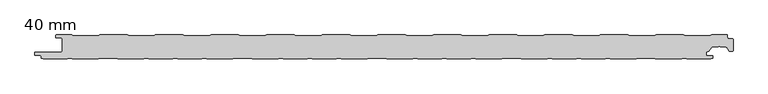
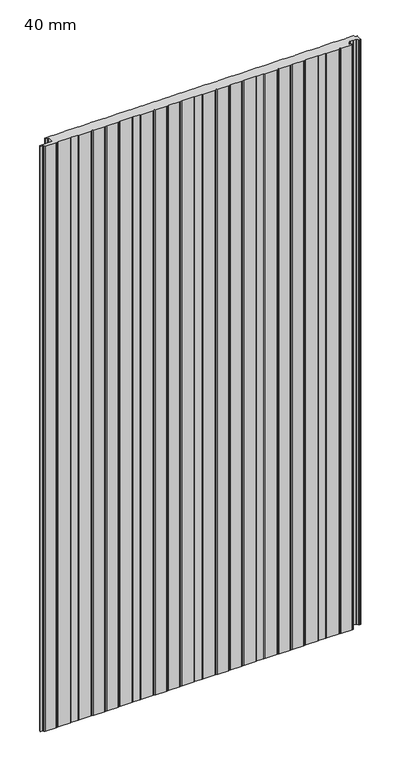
"""IFC4 building model written with IfcOpenShell, lengths in millimetres: plate geometry, HIANSA PANEL - H20.F02.002-PANELES DE FACHADA VERTICAL - PANEL PERFILADO - Panel de Muro Cortina : 40 mm."""

from ifc_helpers import new_model, si_unit, frame, origin, place, context, project, spatial, polyline, circle_curve, source, transform, mapped, element, save
from ifc_brep_helpers import plane_surface, cylinder_surface, revolved_surface, advanced_brep


def plate_40_mm_bdf23f91(model_context):
    return source(origin(), model_context, "Body", "AdvancedBrep", [
        advanced_brep(
        [(538.9050596, -38.8752798, 2200.0), (539.9655098, -37.5170803, 2200.0), (539.9655098, -34.8776596, 2200.0), (530.7999998, -34.8776596, 2200.0), (529.2999998, -33.3776596, 2200.0), (529.2999998, -29.1276596, 2200.0), (530.7999998, -27.6276596, 2200.0), (532.401303, -27.6276596, 2200.0), (533.630031, -26.9880243, 2200.0), (537.8715505, -20.9305067, 2200.0), (539.5098546, -20.0776596, 2200.0), (548.6062273, -20.0776596, 2200.0), (549.7990477, -19.3889845, 2200.0), (550.7990477, -19.3889845, 2200.0), (551.991868, -20.0776596, 2200.0), (561.0896683, -20.0776596, 2200.0), (562.7279724, -20.9305067, 2200.0), (566.9694918, -26.9880243, 2200.0), (568.1982199, -27.6276596, 2200.0), (571.5805695, -27.6276596, 2200.0), (573.0805695, -26.1276596, 2200.0), (573.0810464, -7.7494039, 2200.0), (572.0803311, -6.7486887, 2200.0), (565.9337882, -6.7486887, 2200.0), (563.9323512, -4.7472517, 2200.0), (563.9323512, -1.4941037, 2200.0), (562.9382476, -0.5, 2200.0), (538.0627765, -0.5, 2200.0), (535.0504226, -1.5005169, 2200.0), (494.888145, -1.5005169, 2200.0), (491.8865943, -0.5, 2200.0), (447.0519733, -0.5, 2200.0), (444.0504226, -1.5005169, 2200.0), (403.888145, -1.5005169, 2200.0), (400.8865943, -0.5, 2200.0), (356.0519733, -0.5, 2200.0), (353.0504226, -1.5005169, 2200.0), (312.888145, -1.5005169, 2200.0), (309.8865943, -0.5, 2200.0), (265.0519733, -0.5, 2200.0), (262.0504226, -1.5005169, 2200.0), (221.888145, -1.5005169, 2200.0), (218.8865943, -0.5, 2200.0), (174.0519733, -0.5, 2200.0), (171.0504226, -1.5005169, 2200.0), (130.888145, -1.5005169, 2200.0), (127.8865943, -0.5, 2200.0), (83.0519733, -0.5, 2200.0), (80.0504226, -1.5005169, 2200.0), (39.888145, -1.5005169, 2200.0), (36.8865943, -0.5, 2200.0), (-7.9480267, -0.5, 2200.0), (-10.9495774, -1.5005169, 2200.0), (-51.111855, -1.5005169, 2200.0), (-54.1134057, -0.5, 2200.0), (-98.9480267, -0.5, 2200.0), (-101.9495774, -1.5005169, 2200.0), (-142.111855, -1.5005169, 2200.0), (-145.1134057, -0.5, 2200.0), (-189.9480267, -0.5, 2200.0), (-192.9495774, -1.5005169, 2200.0), (-233.111855, -1.5005169, 2200.0), (-236.1134057, -0.5, 2200.0), (-280.9480267, -0.5, 2200.0), (-283.9495774, -1.5005169, 2200.0), (-324.111855, -1.5005169, 2200.0), (-327.1134057, -0.5, 2200.0), (-371.9480267, -0.5, 2200.0), (-374.9495774, -1.5005169, 2200.0), (-415.111855, -1.5005169, 2200.0), (-418.1134057, -0.5, 2200.0), (-462.9480267, -0.5, 2200.0), (-465.9495774, -1.5005169, 2200.0), (-506.111855, -1.5005169, 2200.0), (-509.1037329, -0.5, 2200.0), (-534.0319041, -0.5, 2200.0), (-535.0319599, -1.5000258, 2200.0), (-535.0322739, -4.4999967, 2200.0), (-534.0322682, -5.5000043, 2200.0), (-526.4181879, -5.5004096, 2200.0), (-524.3789536, -7.5396439, 2200.0), (-524.3789536, -26.3470846, 2200.0), (-526.9158188, -28.8839497, 2200.0), (-569.2000002, -28.8839497, 2200.0), (-569.2000002, -33.6276596, 2200.0), (-560.5344902, -33.6276596, 2200.0), (-559.0344903, -35.1276596, 2200.0), (-559.0344903, -37.5178943, 2200.0), (-557.9748297, -38.8750825, 2200.0), (-555.4751594, -39.5, 2200.0), (-516.3760428, -39.5, 2200.0), (-512.31449, -38.4846118, 2200.0), (-508.2529372, -39.5, 2200.0), (-465.1734067, -39.5, 2200.0), (-462.1734067, -38.5, 2200.0), (-436.899129, -38.5, 2200.0), (-433.899129, -39.5, 2200.0), (-390.8195984, -39.5, 2200.0), (-386.7580456, -38.4846118, 2200.0), (-382.6964928, -39.5, 2200.0), (-343.5973762, -39.5, 2200.0), (-339.5358234, -38.4846118, 2200.0), (-335.4742706, -39.5, 2200.0), (-296.375154, -39.5, 2200.0), (-292.3136012, -38.4846118, 2200.0), (-288.2520484, -39.5, 2200.0), (-245.1725179, -39.5, 2200.0), (-242.1725179, -38.5, 2200.0), (-216.8982402, -38.5, 2200.0), (-213.8982402, -39.5, 2200.0), (-170.8187096, -39.5, 2200.0), (-166.7571568, -38.4846118, 2200.0), (-162.695604, -39.5, 2200.0), (-123.5964874, -39.5, 2200.0), (-119.5349346, -38.4846118, 2200.0), (-115.4733818, -39.5, 2200.0), (-76.3742652, -39.5, 2200.0), (-72.3127124, -38.4846118, 2200.0), (-68.2511596, -39.5, 2200.0), (-25.1716291, -39.5, 2200.0), (-22.1716291, -38.5, 2200.0), (3.1026486, -38.5, 2200.0), (6.1026486, -39.5, 2200.0), (49.1821792, -39.5, 2200.0), (53.243732, -38.4846118, 2200.0), (57.3052848, -39.5, 2200.0), (96.4044014, -39.5, 2200.0), (100.4659542, -38.4846118, 2200.0), (104.527507, -39.5, 2200.0), (143.6266236, -39.5, 2200.0), (147.6881764, -38.4846118, 2200.0), (151.7497292, -39.5, 2200.0), (194.8292597, -39.5, 2200.0), (197.8292597, -38.5, 2200.0), (223.1035374, -38.5, 2200.0), (226.1035374, -39.5, 2200.0), (269.183068, -39.5, 2200.0), (273.2446208, -38.4846118, 2200.0), (277.3061736, -39.5, 2200.0), (316.4052902, -39.5, 2200.0), (320.466843, -38.4846118, 2200.0), (324.5283958, -39.5, 2200.0), (363.6275124, -39.5, 2200.0), (367.6890652, -38.4846118, 2200.0), (371.750618, -39.5, 2200.0), (414.8301485, -39.5, 2200.0), (417.8301485, -38.5, 2200.0), (443.1044262, -38.5, 2200.0), (446.1044262, -39.5, 2200.0), (489.1839568, -39.5, 2200.0), (493.2455096, -38.4846118, 2200.0), (497.3070624, -39.5, 2200.0), (536.406179, -39.5, 2200.0), (538.9050596, -38.8752798, 0.0), (536.406179, -39.5, 0.0), (497.3070624, -39.5, 0.0), (493.2455096, -38.4846118, 0.0), (489.1839568, -39.5, 0.0), (446.1044262, -39.5, 0.0), (443.1044262, -38.5, 0.0), (417.8301485, -38.5, 0.0), (414.8301485, -39.5, 0.0), (371.750618, -39.5, 0.0), (367.6890652, -38.4846118, 0.0), (363.6275124, -39.5, 0.0), (324.5283958, -39.5, 0.0), (320.466843, -38.4846118, 0.0), (316.4052902, -39.5, 0.0), (277.3061736, -39.5, 0.0), (273.2446208, -38.4846118, 0.0), (269.183068, -39.5, 0.0), (226.1035374, -39.5, 0.0), (223.1035374, -38.5, 0.0), (197.8292597, -38.5, 0.0), (194.8292597, -39.5, 0.0), (151.7497292, -39.5, 0.0), (147.6881764, -38.4846118, 0.0), (143.6266236, -39.5, 0.0), (104.527507, -39.5, 0.0), (100.4659542, -38.4846118, 0.0), (96.4044014, -39.5, 0.0), (57.3052848, -39.5, 0.0), (53.243732, -38.4846118, 0.0), (49.1821792, -39.5, 0.0), (6.1026486, -39.5, 0.0), (3.1026486, -38.5, 0.0), (-22.1716291, -38.5, 0.0), (-25.1716291, -39.5, 0.0), (-68.2511596, -39.5, 0.0), (-72.3127124, -38.4846118, 0.0), (-76.3742652, -39.5, 0.0), (-115.4733818, -39.5, 0.0), (-119.5349346, -38.4846118, 0.0), (-123.5964874, -39.5, 0.0), (-162.695604, -39.5, 0.0), (-166.7571568, -38.4846118, 0.0), (-170.8187096, -39.5, 0.0), (-213.8982402, -39.5, 0.0), (-216.8982402, -38.5, 0.0), (-242.1725179, -38.5, 0.0), (-245.1725179, -39.5, 0.0), (-288.2520484, -39.5, 0.0), (-292.3136012, -38.4846118, 0.0), (-296.375154, -39.5, 0.0), (-335.4742706, -39.5, 0.0), (-339.5358234, -38.4846118, 0.0), (-343.5973762, -39.5, 0.0), (-382.6964928, -39.5, 0.0), (-386.7580456, -38.4846118, 0.0), (-390.8195984, -39.5, 0.0), (-433.899129, -39.5, 0.0), (-436.899129, -38.5, 0.0), (-462.1734067, -38.5, 0.0), (-465.1734067, -39.5, 0.0), (-508.2529372, -39.5, 0.0), (-512.31449, -38.4846118, 0.0), (-516.3760428, -39.5, 0.0), (-555.4751594, -39.5, 0.0), (-557.9748297, -38.8750825, 0.0), (-559.0344903, -37.5178943, 0.0), (-559.0344903, -35.1276596, 0.0), (-560.5344902, -33.6276596, 0.0), (-569.2000002, -33.6276596, 0.0), (-569.2000002, -28.8839497, 0.0), (-526.9158188, -28.8839497, 0.0), (-524.3789536, -26.3470846, 0.0), (-524.3789536, -7.5396439, 0.0), (-526.4181879, -5.5004096, 0.0), (-534.0322682, -5.5004096, 0.0), (-535.0322739, -4.4999967, 0.0), (-535.0319599, -1.5000258, 0.0), (-534.0319041, -0.5, 0.0), (-509.1037329, -0.5, 0.0), (-506.111855, -1.5005169, 0.0), (-465.9495774, -1.5005169, 0.0), (-462.9480267, -0.5, 0.0), (-418.1134057, -0.5, 0.0), (-415.111855, -1.5005169, 0.0), (-374.9495774, -1.5005169, 0.0), (-371.9480267, -0.5, 0.0), (-327.1134057, -0.5, 0.0), (-324.111855, -1.5005169, 0.0), (-283.9495774, -1.5005169, 0.0), (-280.9480267, -0.5, 0.0), (-236.1134057, -0.5, 0.0), (-233.111855, -1.5005169, 0.0), (-192.9495774, -1.5005169, 0.0), (-189.9480267, -0.5, 0.0), (-145.1134057, -0.5, 0.0), (-142.111855, -1.5005169, 0.0), (-101.9495774, -1.5005169, 0.0), (-98.9480267, -0.5, 0.0), (-54.1134057, -0.5, 0.0), (-51.111855, -1.5005169, 0.0), (-10.9495774, -1.5005169, 0.0), (-7.9480267, -0.5, 0.0), (36.8865943, -0.5, 0.0), (39.888145, -1.5005169, 0.0), (80.0504226, -1.5005169, 0.0), (83.0519733, -0.5, 0.0), (127.8865943, -0.5, 0.0), (130.888145, -1.5005169, 0.0), (171.0504226, -1.5005169, 0.0), (174.0519733, -0.5, 0.0), (218.8865943, -0.5, 0.0), (221.888145, -1.5005169, 0.0), (262.0504226, -1.5005169, 0.0), (265.0519733, -0.5, 0.0), (309.8865943, -0.5, 0.0), (312.888145, -1.5005169, 0.0), (353.0504226, -1.5005169, 0.0), (356.0519733, -0.5, 0.0), (400.8865943, -0.5, 0.0), (403.888145, -1.5005169, 0.0), (444.0504226, -1.5005169, 0.0), (447.0519733, -0.5, 0.0), (491.8865943, -0.5, 0.0), (494.888145, -1.5005169, 0.0), (535.0504226, -1.5005169, 0.0), (538.0627765, -0.5, 0.0), (562.9382476, -0.5, 0.0), (563.9323512, -1.4941037, 0.0), (563.9323512, -4.7472517, 0.0), (565.9337882, -6.7486887, 0.0), (572.0803311, -6.7486887, 0.0), (573.0810464, -7.7494039, 0.0), (573.0810464, -26.1276596, 0.0), (571.5805695, -27.6276596, 0.0), (568.1982199, -27.6276596, 0.0), (566.9694918, -26.9880243, 0.0), (562.7279724, -20.9305067, 0.0), (561.0896683, -20.0776596, 0.0), (551.991868, -20.0776596, 0.0), (550.7990477, -19.3889845, 0.0), (549.7990477, -19.3889845, 0.0), (548.6062273, -20.0776596, 0.0), (539.5098546, -20.0776596, 0.0), (537.8715505, -20.9305067, 0.0), (533.630031, -26.9880243, 0.0), (532.401303, -27.6276596, 0.0), (530.7999998, -27.6276596, 0.0), (529.2999998, -29.1276596, 0.0), (529.2999998, -33.3776596, 0.0), (530.7999998, -34.8776596, 0.0), (539.9655098, -34.8776596, 0.0), (539.9655098, -37.5170803, 0.0)],
        [
            (0, 1, circle_curve(frame((538.5655098, -37.5170803, 2200.0), z_axis=(0.0, 0.0, 1.0), x_axis=(1.0, 0.0, 0.0)), 1.4)),
            (1, 2),
            (2, 3),
            (3, 4, circle_curve(frame((530.7999998, -33.3776596, 2200.0), z_axis=(0.0, 0.0, -1.0), x_axis=(1.0, 0.0, 0.0)), 1.5)),
            (4, 5),
            (5, 6, circle_curve(frame((530.7999998, -29.1276596, 2200.0), z_axis=(0.0, 0.0, -1.0), x_axis=(1.0, 0.0, 0.0)), 1.5)),
            (6, 7),
            (7, 8, circle_curve(frame((532.401303, -26.1276596, 2200.0), z_axis=(0.0, 0.0, 1.0), x_axis=(1.0, 0.0, 0.0)), 1.5)),
            (8, 9),
            (9, 10, circle_curve(frame((539.5098546, -22.0776596, 2200.0), z_axis=(0.0, 0.0, -1.0), x_axis=(1.0, 0.0, 0.0)), 2.0)),
            (10, 11),
            (11, 12),
            (12, 13, circle_curve(frame((550.2990477, -20.2550099, 2200.0), z_axis=(0.0, 0.0, -1.0), x_axis=(1.0, 0.0, 0.0)), 1.0)),
            (13, 14),
            (14, 15),
            (15, 16, circle_curve(frame((561.0896683, -22.0776596, 2200.0), z_axis=(0.0, 0.0, -1.0), x_axis=(1.0, 0.0, 0.0)), 2.0)),
            (16, 17),
            (17, 18, circle_curve(frame((568.1982199, -26.1276596, 2200.0), z_axis=(0.0, 0.0, 1.0), x_axis=(1.0, 0.0, 0.0)), 1.5)),
            (18, 19),
            (19, 20, circle_curve(frame((571.5805695, -26.1276596, 2200.0), z_axis=(0.0, 0.0, 1.0), x_axis=(1.0, 0.0, 0.0)), 1.5)),
            (20, 21),
            (21, 22, circle_curve(frame((572.0803311, -7.7494039, 2200.0), z_axis=(0.0, 0.0, 1.0), x_axis=(1.0, 0.0, 0.0)), 1.0007153)),
            (22, 23),
            (23, 24, circle_curve(frame((565.9337882, -4.7472517, 2200.0), z_axis=(0.0, 0.0, -1.0), x_axis=(1.0, 0.0, 0.0)), 2.0014369)),
            (24, 25),
            (25, 26, circle_curve(frame((562.9382476, -1.4941037, 2200.0), z_axis=(0.0, 0.0, 1.0), x_axis=(1.0, 0.0, 0.0)), 0.9941037)),
            (26, 27),
            (27, 28),
            (28, 29),
            (29, 30),
            (30, 31),
            (31, 32),
            (32, 33),
            (33, 34),
            (34, 35),
            (35, 36),
            (36, 37),
            (37, 38),
            (38, 39),
            (39, 40),
            (40, 41),
            (41, 42),
            (42, 43),
            (43, 44),
            (44, 45),
            (45, 46),
            (46, 47),
            (47, 48),
            (48, 49),
            (49, 50),
            (50, 51),
            (51, 52),
            (52, 53),
            (53, 54),
            (54, 55),
            (55, 56),
            (56, 57),
            (57, 58),
            (58, 59),
            (59, 60),
            (60, 61),
            (61, 62),
            (62, 63),
            (63, 64),
            (64, 65),
            (65, 66),
            (66, 67),
            (67, 68),
            (68, 69),
            (69, 70),
            (70, 71),
            (71, 72),
            (72, 73),
            (73, 74),
            (74, 75),
            (75, 76, circle_curve(frame((-534.0319041, -1.5000558, 2200.0), z_axis=(0.0, 0.0, 1.0), x_axis=(1.0, 0.0, 0.0)), 1.0000558)),
            (76, 77),
            (77, 78, circle_curve(frame((-534.0322682, -4.4999986, 2200.0), z_axis=(0.0, 0.0, 1.0), x_axis=(1.0, 0.0, 0.0)), 1.0000057)),
            (78, 79),
            (79, 80, circle_curve(frame((-526.4181879, -7.5396439, 2200.0), z_axis=(0.0, 0.0, -1.0), x_axis=(1.0, 0.0, 0.0)), 2.0392343)),
            (80, 81),
            (81, 82, circle_curve(frame((-526.9158188, -26.3470846, 2200.0), z_axis=(0.0, 0.0, -1.0), x_axis=(1.0, 0.0, 0.0)), 2.5368651)),
            (82, 83),
            (83, 84),
            (84, 85),
            (85, 86, circle_curve(frame((-560.5344902, -35.1276596, 2200.0), z_axis=(0.0, 0.0, -1.0), x_axis=(1.0, 0.0, 0.0)), 1.5)),
            (86, 87),
            (87, 88, circle_curve(frame((-557.6355327, -37.5178943, 2200.0), z_axis=(0.0, 0.0, 1.0), x_axis=(1.0, 0.0, 0.0)), 1.3989576)),
            (88, 89),
            (89, 90),
            (90, 91),
            (91, 92),
            (92, 93),
            (93, 94),
            (94, 95),
            (95, 96),
            (96, 97),
            (97, 98),
            (98, 99),
            (99, 100),
            (100, 101),
            (101, 102),
            (102, 103),
            (103, 104),
            (104, 105),
            (105, 106),
            (106, 107),
            (107, 108),
            (108, 109),
            (109, 110),
            (110, 111),
            (111, 112),
            (112, 113),
            (113, 114),
            (114, 115),
            (115, 116),
            (116, 117),
            (117, 118),
            (118, 119),
            (119, 120),
            (120, 121),
            (121, 122),
            (122, 123),
            (123, 124),
            (124, 125),
            (125, 126),
            (126, 127),
            (127, 128),
            (128, 129),
            (129, 130),
            (130, 131),
            (131, 132),
            (132, 133),
            (133, 134),
            (134, 135),
            (135, 136),
            (136, 137),
            (137, 138),
            (138, 139),
            (139, 140),
            (140, 141),
            (141, 142),
            (142, 143),
            (143, 144),
            (144, 145),
            (145, 146),
            (146, 147),
            (147, 148),
            (148, 149),
            (149, 150),
            (150, 151),
            (151, 152),
            (152, 0),
            (153, 154),
            (154, 155),
            (155, 156),
            (156, 157),
            (157, 158),
            (158, 159),
            (159, 160),
            (160, 161),
            (161, 162),
            (162, 163),
            (163, 164),
            (164, 165),
            (165, 166),
            (166, 167),
            (167, 168),
            (168, 169),
            (169, 170),
            (170, 171),
            (171, 172),
            (172, 173),
            (173, 174),
            (174, 175),
            (175, 176),
            (176, 177),
            (177, 178),
            (178, 179),
            (179, 180),
            (180, 181),
            (181, 182),
            (182, 183),
            (183, 184),
            (184, 185),
            (185, 186),
            (186, 187),
            (187, 188),
            (188, 189),
            (189, 190),
            (190, 191),
            (191, 192),
            (192, 193),
            (193, 194),
            (194, 195),
            (195, 196),
            (196, 197),
            (197, 198),
            (198, 199),
            (199, 200),
            (200, 201),
            (201, 202),
            (202, 203),
            (203, 204),
            (204, 205),
            (205, 206),
            (206, 207),
            (207, 208),
            (208, 209),
            (209, 210),
            (210, 211),
            (211, 212),
            (212, 213),
            (213, 214),
            (214, 215),
            (215, 216),
            (216, 217),
            (217, 218),
            (218, 219, circle_curve(frame((-557.6355327, -37.5178943, 0.0), z_axis=(0.0, 0.0, -1.0), x_axis=(1.0, 0.0, 0.0)), 1.3989576)),
            (219, 220),
            (220, 221, circle_curve(frame((-560.5344902, -35.1276596, 0.0), z_axis=(0.0, 0.0, 1.0), x_axis=(1.0, 0.0, 0.0)), 1.5)),
            (221, 222),
            (222, 223),
            (223, 224),
            (224, 225, circle_curve(frame((-526.9158188, -26.3470846, 0.0), z_axis=(0.0, 0.0, 1.0), x_axis=(1.0, 0.0, 0.0)), 2.5368651)),
            (225, 226),
            (226, 227, circle_curve(frame((-526.4181879, -7.5396439, 0.0), z_axis=(0.0, 0.0, 1.0), x_axis=(1.0, 0.0, 0.0)), 2.0392343)),
            (227, 228),
            (228, 229, circle_curve(frame((-534.0322682, -4.4999986, 0.0), z_axis=(0.0, 0.0, -1.0), x_axis=(1.0, 0.0, 0.0)), 1.0000057)),
            (229, 230),
            (230, 231, circle_curve(frame((-534.0319041, -1.5000558, 0.0), z_axis=(0.0, 0.0, -1.0), x_axis=(1.0, 0.0, 0.0)), 1.0000558)),
            (231, 232),
            (232, 233),
            (233, 234),
            (234, 235),
            (235, 236),
            (236, 237),
            (237, 238),
            (238, 239),
            (239, 240),
            (240, 241),
            (241, 242),
            (242, 243),
            (243, 244),
            (244, 245),
            (245, 246),
            (246, 247),
            (247, 248),
            (248, 249),
            (249, 250),
            (250, 251),
            (251, 252),
            (252, 253),
            (253, 254),
            (254, 255),
            (255, 256),
            (256, 257),
            (257, 258),
            (258, 259),
            (259, 260),
            (260, 261),
            (261, 262),
            (262, 263),
            (263, 264),
            (264, 265),
            (265, 266),
            (266, 267),
            (267, 268),
            (268, 269),
            (269, 270),
            (270, 271),
            (271, 272),
            (272, 273),
            (273, 274),
            (274, 275),
            (275, 276),
            (276, 277),
            (277, 278),
            (278, 279),
            (279, 280),
            (280, 281, circle_curve(frame((562.9382476, -1.4941037, 0.0), z_axis=(0.0, 0.0, -1.0), x_axis=(1.0, 0.0, 0.0)), 0.9941037)),
            (281, 282),
            (282, 283, circle_curve(frame((565.9337882, -4.7472517, 0.0), z_axis=(0.0, 0.0, 1.0), x_axis=(1.0, 0.0, 0.0)), 2.0014369)),
            (283, 284),
            (284, 285, circle_curve(frame((572.0803311, -7.7494039, 0.0), z_axis=(0.0, 0.0, -1.0), x_axis=(1.0, 0.0, 0.0)), 1.0007153)),
            (285, 286),
            (286, 287, circle_curve(frame((571.5805695, -26.1276596, 0.0), z_axis=(0.0, 0.0, -1.0), x_axis=(1.0, 0.0, 0.0)), 1.5)),
            (287, 288),
            (288, 289, circle_curve(frame((568.1982199, -26.1276596, 0.0), z_axis=(0.0, 0.0, -1.0), x_axis=(1.0, 0.0, 0.0)), 1.5)),
            (289, 290),
            (290, 291, circle_curve(frame((561.0896683, -22.0776596, 0.0), z_axis=(0.0, 0.0, 1.0), x_axis=(1.0, 0.0, 0.0)), 2.0)),
            (291, 292),
            (292, 293),
            (293, 294, circle_curve(frame((550.2990477, -20.2550099, 0.0), z_axis=(0.0, 0.0, 1.0), x_axis=(1.0, 0.0, 0.0)), 1.0)),
            (294, 295),
            (295, 296),
            (296, 297, circle_curve(frame((539.5098546, -22.0776596, 0.0), z_axis=(0.0, 0.0, 1.0), x_axis=(1.0, 0.0, 0.0)), 2.0)),
            (297, 298),
            (298, 299, circle_curve(frame((532.401303, -26.1276596, 0.0), z_axis=(0.0, 0.0, -1.0), x_axis=(1.0, 0.0, 0.0)), 1.5)),
            (299, 300),
            (300, 301, circle_curve(frame((530.7999998, -29.1276596, 0.0), z_axis=(0.0, 0.0, 1.0), x_axis=(1.0, 0.0, 0.0)), 1.5)),
            (301, 302),
            (302, 303, circle_curve(frame((530.7999998, -33.3776596, 0.0), z_axis=(0.0, 0.0, 1.0), x_axis=(1.0, 0.0, 0.0)), 1.5)),
            (303, 304),
            (304, 305),
            (305, 153, circle_curve(frame((538.5655098, -37.5170803, 0.0), z_axis=(0.0, 0.0, -1.0), x_axis=(1.0, 0.0, 0.0)), 1.4)),
            (88, 218),
            (217, 89),
            (87, 219),
            (86, 220),
            (85, 221),
            (84, 222),
            (83, 223),
            (82, 224),
            (81, 225),
            (80, 226),
            (79, 227),
            (78, 228),
            (25, 281),
            (280, 26),
            (24, 282),
            (23, 283),
            (21, 285),
            (284, 22),
            (20, 286),
            (19, 287),
            (18, 288),
            (17, 289),
            (16, 290),
            (15, 291),
            (9, 297),
            (296, 10),
            (8, 298),
            (7, 299),
            (6, 300),
            (5, 301),
            (4, 302),
            (3, 303),
            (2, 304),
            (1, 305),
            (0, 153),
            (152, 154),
            (151, 155),
            (150, 156),
            (149, 157),
            (148, 158),
            (147, 159),
            (146, 160),
            (145, 161),
            (144, 162),
            (143, 163),
            (142, 164),
            (141, 165),
            (140, 166),
            (139, 167),
            (138, 168),
            (137, 169),
            (136, 170),
            (135, 171),
            (134, 172),
            (133, 173),
            (132, 174),
            (131, 175),
            (130, 176),
            (129, 177),
            (128, 178),
            (127, 179),
            (126, 180),
            (125, 181),
            (124, 182),
            (123, 183),
            (122, 184),
            (121, 185),
            (120, 186),
            (119, 187),
            (118, 188),
            (117, 189),
            (116, 190),
            (115, 191),
            (114, 192),
            (113, 193),
            (112, 194),
            (111, 195),
            (110, 196),
            (109, 197),
            (108, 198),
            (107, 199),
            (106, 200),
            (105, 201),
            (104, 202),
            (103, 203),
            (102, 204),
            (101, 205),
            (100, 206),
            (99, 207),
            (98, 208),
            (97, 209),
            (96, 210),
            (95, 211),
            (94, 212),
            (93, 213),
            (92, 214),
            (91, 215),
            (90, 216),
            (74, 232),
            (231, 75),
            (73, 233),
            (72, 234),
            (71, 235),
            (70, 236),
            (69, 237),
            (68, 238),
            (67, 239),
            (66, 240),
            (65, 241),
            (64, 242),
            (63, 243),
            (62, 244),
            (61, 245),
            (60, 246),
            (59, 247),
            (58, 248),
            (57, 249),
            (56, 250),
            (55, 251),
            (54, 252),
            (53, 253),
            (52, 254),
            (51, 255),
            (50, 256),
            (49, 257),
            (48, 258),
            (47, 259),
            (46, 260),
            (45, 261),
            (44, 262),
            (43, 263),
            (42, 264),
            (41, 265),
            (40, 266),
            (39, 267),
            (38, 268),
            (37, 269),
            (36, 270),
            (35, 271),
            (34, 272),
            (33, 273),
            (32, 274),
            (31, 275),
            (30, 276),
            (29, 277),
            (28, 278),
            (27, 279),
            (14, 292),
            (13, 293),
            (12, 294),
            (11, 295),
            (77, 229),
            (76, 230),
        ],
        [
            plane_surface(frame((-550.0000002, 0.0, 2200.0), z_axis=(0.0, 0.0, 1.0), x_axis=(-1.0, 0.0, 0.0))),
            plane_surface(frame((-550.0000002, 0.0, 0.0), z_axis=(0.0, 0.0, -1.0), x_axis=(-1.0, 0.0, 0.0))),
            plane_surface(frame((-555.4751594, -39.5, 2200.0), z_axis=(-0.24253560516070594, -0.9701425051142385, 0.0), x_axis=(0.0, 0.0, -1.0))),
            cylinder_surface(frame((-557.6355327, -37.5178943, 2200.0), z_axis=(0.0, 0.0, 1.0), x_axis=(1.0, 0.0, 0.0)), 1.3989576),
            plane_surface(frame((-559.0344903, -37.5178943, 2200.0), z_axis=(-1.0, 0.0, 0.0), x_axis=(0.0, 0.0, -1.0))),
            revolved_surface(polyline([(-559.0344902, -35.1276596, 0.0), (-559.0344902, -35.1276596, 2200.0)]), (-560.5344902, -35.1276596, 2200.0), (0.0, 0.0, -1.0)),
            plane_surface(frame((-560.5344902, -33.6276596, 2200.0), z_axis=(0.0, -1.0, 0.0), x_axis=(0.0, 0.0, -1.0))),
            plane_surface(frame((-569.2000002, -33.6276596, 2200.0), z_axis=(-1.0, 0.0, 0.0), x_axis=(0.0, 0.0, -1.0))),
            plane_surface(frame((-569.2000002, -28.8839497, 2200.0), z_axis=(0.0, 1.0, 0.0), x_axis=(0.0, 0.0, -1.0))),
            revolved_surface(polyline([(-524.3789537, -26.3470846, 0.0), (-524.3789537, -26.3470846, 2200.0)]), (-526.9158188, -26.3470846, 2200.0), (0.0, 0.0, -1.0)),
            plane_surface(frame((-524.3789536, -26.3470846, 2200.0), z_axis=(-1.0, 0.0, 0.0), x_axis=(0.0, 0.0, -1.0))),
            revolved_surface(polyline([(-524.3789536, -7.5396439, 0.0), (-524.3789536, -7.5396439, 2200.0)]), (-526.4181879, -7.5396439, 2200.0), (0.0, 0.0, -1.0)),
            plane_surface(frame((-526.4181879, -5.5004096, 2200.0), z_axis=(0.0, -1.0, 0.0), x_axis=(0.0, 0.0, -1.0))),
            cylinder_surface(frame((562.9382476, -1.4941037, 2200.0), z_axis=(0.0, 0.0, 1.0), x_axis=(1.0, 0.0, 0.0)), 0.9941037),
            plane_surface(frame((563.9323512, -1.4941037, 2200.0), z_axis=(1.0, 0.0, 0.0), x_axis=(0.0, 0.0, -1.0))),
            revolved_surface(polyline([(567.9352251, -4.7472517, 0.0), (567.9352251, -4.7472517, 2200.0)]), (565.9337882, -4.7472517, 2200.0), (0.0, 0.0, -1.0)),
            cylinder_surface(frame((572.0803311, -7.7494039, 2200.0), z_axis=(0.0, 0.0, 1.0), x_axis=(1.0, 0.0, 0.0)), 1.0007153),
            plane_surface(frame((573.0810464, -7.7494039, 2200.0), z_axis=(1.0, 0.0, 0.0), x_axis=(0.0, 0.0, -1.0))),
            cylinder_surface(frame((571.5805695, -26.1276596, 2200.0), z_axis=(0.0, 0.0, 1.0), x_axis=(1.0, 0.0, 0.0)), 1.5),
            plane_surface(frame((571.5805695, -27.6276596, 2200.0), z_axis=(0.0, -1.0, 0.0), x_axis=(0.0, 0.0, -1.0))),
            cylinder_surface(frame((568.1982199, -26.1276596, 2200.0), z_axis=(0.0, 0.0, 1.0), x_axis=(1.0, 0.0, 0.0)), 1.5),
            plane_surface(frame((566.9694918, -26.9880243, 2200.0), z_axis=(-0.8191520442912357, -0.5735764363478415, 0.0), x_axis=(0.0, 0.0, -1.0))),
            revolved_surface(polyline([(563.0896683, -22.0776596, 0.0), (563.0896683, -22.0776596, 2200.0)]), (561.0896683, -22.0776596, 2200.0), (0.0, 0.0, -1.0)),
            revolved_surface(polyline([(541.5098546, -22.0776596, 0.0), (541.5098546, -22.0776596, 2200.0)]), (539.5098546, -22.0776596, 2200.0), (0.0, 0.0, -1.0)),
            plane_surface(frame((537.8715505, -20.9305067, 2200.0), z_axis=(0.8191520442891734, -0.5735764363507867, 0.0), x_axis=(0.0, 0.0, -1.0))),
            cylinder_surface(frame((532.401303, -26.1276596, 2200.0), z_axis=(0.0, 0.0, 1.0), x_axis=(1.0, 0.0, 0.0)), 1.5),
            plane_surface(frame((532.401303, -27.6276596, 2200.0), z_axis=(0.0, -1.0, 0.0), x_axis=(0.0, 0.0, -1.0))),
            revolved_surface(polyline([(532.2999998, -29.1276596, 0.0), (532.2999998, -29.1276596, 2200.0)]), (530.7999998, -29.1276596, 2200.0), (0.0, 0.0, -1.0)),
            plane_surface(frame((529.2999998, -29.1276596, 2200.0), z_axis=(1.0, 0.0, 0.0), x_axis=(0.0, 0.0, -1.0))),
            revolved_surface(polyline([(532.2999998, -33.3776596, 0.0), (532.2999998, -33.3776596, 2200.0)]), (530.7999998, -33.3776596, 2200.0), (0.0, 0.0, -1.0)),
            plane_surface(frame((530.7999998, -34.8776596, 2200.0), z_axis=(0.0, 1.0, 0.0), x_axis=(0.0, 0.0, -1.0))),
            plane_surface(frame((539.9655098, -34.8776596, 2200.0), z_axis=(1.0, 0.0, 0.0), x_axis=(0.0, 0.0, -1.0))),
            cylinder_surface(frame((538.5655098, -37.5170803, 2200.0), z_axis=(0.0, 0.0, 1.0), x_axis=(1.0, 0.0, 0.0)), 1.4),
            plane_surface(frame((538.9050596, -38.8752798, 2200.0), z_axis=(0.24253562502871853, -0.9701425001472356, 0.0), x_axis=(0.0, 0.0, -1.0))),
            plane_surface(frame((565.9337882, -6.7486887, 2200.0), z_axis=(0.0, 1.0, 0.0), x_axis=(0.0, 0.0, -1.0))),
            plane_surface(frame((536.406179, -39.5, 2200.0), z_axis=(0.0, -1.0, 0.0), x_axis=(0.0, 0.0, -1.0))),
            plane_surface(frame((497.3070624, -39.5, 2200.0), z_axis=(-0.24253562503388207, -0.9701425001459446, 0.0), x_axis=(0.0, 0.0, -1.0))),
            plane_surface(frame((493.2455096, -38.4846118, 2200.0), z_axis=(0.2425356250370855, -0.9701425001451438, 0.0), x_axis=(0.0, 0.0, -1.0))),
            plane_surface(frame((489.1839568, -39.5, 2200.0), z_axis=(0.0, -1.0, 0.0), x_axis=(0.0, 0.0, -1.0))),
            plane_surface(frame((446.1044262, -39.5, 2200.0), z_axis=(-0.31622776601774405, -0.9486832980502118, 0.0), x_axis=(0.0, 0.0, -1.0))),
            plane_surface(frame((443.1044262, -38.5, 2200.0), z_axis=(0.0, -1.0, 0.0), x_axis=(0.0, 0.0, -1.0))),
            plane_surface(frame((417.8301485, -38.5, 2200.0), z_axis=(0.316227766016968, -0.9486832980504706, 0.0), x_axis=(0.0, 0.0, -1.0))),
            plane_surface(frame((414.8301485, -39.5, 2200.0), z_axis=(0.0, -1.0, 0.0), x_axis=(0.0, 0.0, -1.0))),
            plane_surface(frame((371.750618, -39.5, 2200.0), z_axis=(-0.24253562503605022, -0.9701425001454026, 0.0), x_axis=(0.0, 0.0, -1.0))),
            plane_surface(frame((367.6890652, -38.4846118, 2200.0), z_axis=(0.24253562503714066, -0.97014250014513, 0.0), x_axis=(0.0, 0.0, -1.0))),
            plane_surface(frame((363.6275124, -39.5, 2200.0), z_axis=(0.0, -1.0, 0.0), x_axis=(0.0, 0.0, -1.0))),
            plane_surface(frame((324.5283958, -39.5, 2200.0), z_axis=(-0.2425356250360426, -0.9701425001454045, 0.0), x_axis=(0.0, 0.0, -1.0))),
            plane_surface(frame((320.466843, -38.4846118, 2200.0), z_axis=(0.24253562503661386, -0.9701425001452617, 0.0), x_axis=(0.0, 0.0, -1.0))),
            plane_surface(frame((316.4052902, -39.5, 2200.0), z_axis=(0.0, -1.0, 0.0), x_axis=(0.0, 0.0, -1.0))),
            plane_surface(frame((277.3061736, -39.5, 2200.0), z_axis=(-0.2425356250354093, -0.9701425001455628, 0.0), x_axis=(0.0, 0.0, -1.0))),
            plane_surface(frame((273.2446208, -38.4846118, 2200.0), z_axis=(0.24253562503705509, -0.9701425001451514, 0.0), x_axis=(0.0, 0.0, -1.0))),
            plane_surface(frame((269.183068, -39.5, 2200.0), z_axis=(0.0, -1.0, 0.0), x_axis=(0.0, 0.0, -1.0))),
            plane_surface(frame((226.1035374, -39.5, 2200.0), z_axis=(-0.31622776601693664, -0.9486832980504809, 0.0), x_axis=(0.0, 0.0, -1.0))),
            plane_surface(frame((223.1035374, -38.5, 2200.0), z_axis=(0.0, -1.0, 0.0), x_axis=(0.0, 0.0, -1.0))),
            plane_surface(frame((197.8292597, -38.5, 2200.0), z_axis=(0.31622776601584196, -0.9486832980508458, 0.0), x_axis=(0.0, 0.0, -1.0))),
            plane_surface(frame((194.8292597, -39.5, 2200.0), z_axis=(0.0, -1.0, 0.0), x_axis=(0.0, 0.0, -1.0))),
            plane_surface(frame((151.7497292, -39.5, 2200.0), z_axis=(-0.24253562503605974, -0.9701425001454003, 0.0), x_axis=(0.0, 0.0, -1.0))),
            plane_surface(frame((147.6881764, -38.4846118, 2200.0), z_axis=(0.24253562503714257, -0.9701425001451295, 0.0), x_axis=(0.0, 0.0, -1.0))),
            plane_surface(frame((143.6266236, -39.5, 2200.0), z_axis=(0.0, -1.0, 0.0), x_axis=(0.0, 0.0, -1.0))),
            plane_surface(frame((104.527507, -39.5, 2200.0), z_axis=(-0.2425356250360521, -0.9701425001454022, 0.0), x_axis=(0.0, 0.0, -1.0))),
            plane_surface(frame((100.4659542, -38.4846118, 2200.0), z_axis=(0.24253562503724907, -0.970142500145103, 0.0), x_axis=(0.0, 0.0, -1.0))),
            plane_surface(frame((96.4044014, -39.5, 2200.0), z_axis=(0.0, -1.0, 0.0), x_axis=(0.0, 0.0, -1.0))),
            plane_surface(frame((57.3052848, -39.5, 2200.0), z_axis=(-0.24253562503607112, -0.9701425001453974, 0.0), x_axis=(0.0, 0.0, -1.0))),
            plane_surface(frame((53.243732, -38.4846118, 2200.0), z_axis=(0.2425356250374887, -0.970142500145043, 0.0), x_axis=(0.0, 0.0, -1.0))),
            plane_surface(frame((49.1821792, -39.5, 2200.0), z_axis=(0.0, -1.0, 0.0), x_axis=(0.0, 0.0, -1.0))),
            plane_surface(frame((6.1026486, -39.5, 2200.0), z_axis=(-0.3162277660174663, -0.9486832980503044, 0.0), x_axis=(0.0, 0.0, -1.0))),
            plane_surface(frame((3.1026486, -38.5, 2200.0), z_axis=(0.0, -1.0, 0.0), x_axis=(0.0, 0.0, -1.0))),
            plane_surface(frame((-22.1716291, -38.5, 2200.0), z_axis=(0.31622776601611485, -0.9486832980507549, 0.0), x_axis=(0.0, 0.0, -1.0))),
            plane_surface(frame((-25.1716291, -39.5, 2200.0), z_axis=(0.0, -1.0, 0.0), x_axis=(0.0, 0.0, -1.0))),
            plane_surface(frame((-68.2511596, -39.5, 2200.0), z_axis=(-0.2425356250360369, -0.9701425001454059, 0.0), x_axis=(0.0, 0.0, -1.0))),
            plane_surface(frame((-72.3127124, -38.4846118, 2200.0), z_axis=(0.24253562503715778, -0.9701425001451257, 0.0), x_axis=(0.0, 0.0, -1.0))),
            plane_surface(frame((-76.3742652, -39.5, 2200.0), z_axis=(0.0, -1.0, 0.0), x_axis=(0.0, 0.0, -1.0))),
            plane_surface(frame((-115.4733818, -39.5, 2200.0), z_axis=(-0.2425356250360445, -0.970142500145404, 0.0), x_axis=(0.0, 0.0, -1.0))),
            plane_surface(frame((-119.5349346, -38.4846118, 2200.0), z_axis=(0.24253562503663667, -0.970142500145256, 0.0), x_axis=(0.0, 0.0, -1.0))),
            plane_surface(frame((-123.5964874, -39.5, 2200.0), z_axis=(0.0, -1.0, 0.0), x_axis=(0.0, 0.0, -1.0))),
            plane_surface(frame((-162.695604, -39.5, 2200.0), z_axis=(-0.2425356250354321, -0.9701425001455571, 0.0), x_axis=(0.0, 0.0, -1.0))),
            plane_surface(frame((-166.7571568, -38.4846118, 2200.0), z_axis=(0.2425356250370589, -0.9701425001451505, 0.0), x_axis=(0.0, 0.0, -1.0))),
            plane_surface(frame((-170.8187096, -39.5, 2200.0), z_axis=(0.0, -1.0, 0.0), x_axis=(0.0, 0.0, -1.0))),
            plane_surface(frame((-213.8982402, -39.5, 2200.0), z_axis=(-0.3162277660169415, -0.9486832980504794, 0.0), x_axis=(0.0, 0.0, -1.0))),
            plane_surface(frame((-216.8982402, -38.5, 2200.0), z_axis=(0.0, -1.0, 0.0), x_axis=(0.0, 0.0, -1.0))),
            plane_surface(frame((-242.1725179, -38.5, 2200.0), z_axis=(0.3162277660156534, -0.9486832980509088, 0.0), x_axis=(0.0, 0.0, -1.0))),
            plane_surface(frame((-245.1725179, -39.5, 2200.0), z_axis=(0.0, -1.0, 0.0), x_axis=(0.0, 0.0, -1.0))),
            plane_surface(frame((-288.2520484, -39.5, 2200.0), z_axis=(-0.2425356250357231, -0.9701425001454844, 0.0), x_axis=(0.0, 0.0, -1.0))),
            plane_surface(frame((-292.3136012, -38.4846118, 2200.0), z_axis=(0.24253562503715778, -0.9701425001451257, 0.0), x_axis=(0.0, 0.0, -1.0))),
            plane_surface(frame((-296.375154, -39.5, 2200.0), z_axis=(0.0, -1.0, 0.0), x_axis=(0.0, 0.0, -1.0))),
            plane_surface(frame((-335.4742706, -39.5, 2200.0), z_axis=(-0.2425356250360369, -0.9701425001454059, 0.0), x_axis=(0.0, 0.0, -1.0))),
            plane_surface(frame((-339.5358234, -38.4846118, 2200.0), z_axis=(0.24253562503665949, -0.9701425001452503, 0.0), x_axis=(0.0, 0.0, -1.0))),
            plane_surface(frame((-343.5973762, -39.5, 2200.0), z_axis=(0.0, -1.0, 0.0), x_axis=(0.0, 0.0, -1.0))),
            plane_surface(frame((-382.6964928, -39.5, 2200.0), z_axis=(-0.2425356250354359, -0.9701425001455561, 0.0), x_axis=(0.0, 0.0, -1.0))),
            plane_surface(frame((-386.7580456, -38.4846118, 2200.0), z_axis=(0.24253562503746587, -0.9701425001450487, 0.0), x_axis=(0.0, 0.0, -1.0))),
            plane_surface(frame((-390.8195984, -39.5, 2200.0), z_axis=(0.0, -1.0, 0.0), x_axis=(0.0, 0.0, -1.0))),
            plane_surface(frame((-433.899129, -39.5, 2200.0), z_axis=(-0.3162277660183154, -0.9486832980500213, 0.0), x_axis=(0.0, 0.0, -1.0))),
            plane_surface(frame((-436.899129, -38.5, 2200.0), z_axis=(0.0, -1.0, 0.0), x_axis=(0.0, 0.0, -1.0))),
            plane_surface(frame((-462.1734067, -38.5, 2200.0), z_axis=(0.31622776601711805, -0.9486832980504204, 0.0), x_axis=(0.0, 0.0, -1.0))),
            plane_surface(frame((-465.1734067, -39.5, 2200.0), z_axis=(0.0, -1.0, 0.0), x_axis=(0.0, 0.0, -1.0))),
            plane_surface(frame((-508.2529372, -39.5, 2200.0), z_axis=(-0.2425356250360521, -0.9701425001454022, 0.0), x_axis=(0.0, 0.0, -1.0))),
            plane_surface(frame((-512.31449, -38.4846118, 2200.0), z_axis=(0.2425356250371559, -0.9701425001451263, 0.0), x_axis=(0.0, 0.0, -1.0))),
            plane_surface(frame((-516.3760428, -39.5, 2200.0), z_axis=(0.0, -1.0, 0.0), x_axis=(0.0, 0.0, -1.0))),
            plane_surface(frame((-534.0319041, -0.5, 2200.0), z_axis=(0.0, 1.0, 0.0), x_axis=(0.0, 0.0, -1.0))),
            plane_surface(frame((-509.1037329, -0.5, 2200.0), z_axis=(0.31714744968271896, 0.9483762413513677, 0.0), x_axis=(0.0, 0.0, -1.0))),
            plane_surface(frame((-506.111855, -1.5005169, 2200.0), z_axis=(0.0, 1.0, 0.0), x_axis=(0.0, 0.0, -1.0))),
            plane_surface(frame((-465.9495774, -1.5005169, 2200.0), z_axis=(-0.316227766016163, 0.9486832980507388, 0.0), x_axis=(0.0, 0.0, -1.0))),
            plane_surface(frame((-462.9480267, -0.5, 2200.0), z_axis=(0.0, 1.0, 0.0), x_axis=(0.0, 0.0, -1.0))),
            plane_surface(frame((-418.1134057, -0.5, 2200.0), z_axis=(0.316227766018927, 0.9486832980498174, 0.0), x_axis=(0.0, 0.0, -1.0))),
            plane_surface(frame((-415.111855, -1.5005169, 2200.0), z_axis=(0.0, 1.0, 0.0), x_axis=(0.0, 0.0, -1.0))),
            plane_surface(frame((-374.9495774, -1.5005169, 2200.0), z_axis=(-0.316227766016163, 0.9486832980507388, 0.0), x_axis=(0.0, 0.0, -1.0))),
            plane_surface(frame((-371.9480267, -0.5, 2200.0), z_axis=(0.0, 1.0, 0.0), x_axis=(0.0, 0.0, -1.0))),
            plane_surface(frame((-327.1134057, -0.5, 2200.0), z_axis=(0.316227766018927, 0.9486832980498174, 0.0), x_axis=(0.0, 0.0, -1.0))),
            plane_surface(frame((-324.111855, -1.5005169, 2200.0), z_axis=(0.0, 1.0, 0.0), x_axis=(0.0, 0.0, -1.0))),
            plane_surface(frame((-283.9495774, -1.5005169, 2200.0), z_axis=(-0.3162277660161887, 0.9486832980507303, 0.0), x_axis=(0.0, 0.0, -1.0))),
            plane_surface(frame((-280.9480267, -0.5, 2200.0), z_axis=(0.0, 1.0, 0.0), x_axis=(0.0, 0.0, -1.0))),
            plane_surface(frame((-236.1134057, -0.5, 2200.0), z_axis=(0.31622776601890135, 0.9486832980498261, 0.0), x_axis=(0.0, 0.0, -1.0))),
            plane_surface(frame((-233.111855, -1.5005169, 2200.0), z_axis=(0.0, 1.0, 0.0), x_axis=(0.0, 0.0, -1.0))),
            plane_surface(frame((-192.9495774, -1.5005169, 2200.0), z_axis=(-0.316227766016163, 0.9486832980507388, 0.0), x_axis=(0.0, 0.0, -1.0))),
            plane_surface(frame((-189.9480267, -0.5, 2200.0), z_axis=(0.0, 1.0, 0.0), x_axis=(0.0, 0.0, -1.0))),
            plane_surface(frame((-145.1134057, -0.5, 2200.0), z_axis=(0.316227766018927, 0.9486832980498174, 0.0), x_axis=(0.0, 0.0, -1.0))),
            plane_surface(frame((-142.111855, -1.5005169, 2200.0), z_axis=(0.0, 1.0, 0.0), x_axis=(0.0, 0.0, -1.0))),
            plane_surface(frame((-101.9495774, -1.5005169, 2200.0), z_axis=(-0.316227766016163, 0.9486832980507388, 0.0), x_axis=(0.0, 0.0, -1.0))),
            plane_surface(frame((-98.9480267, -0.5, 2200.0), z_axis=(0.0, 1.0, 0.0), x_axis=(0.0, 0.0, -1.0))),
            plane_surface(frame((-54.1134057, -0.5, 2200.0), z_axis=(0.3162277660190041, 0.9486832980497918, 0.0), x_axis=(0.0, 0.0, -1.0))),
            plane_surface(frame((-51.111855, -1.5005169, 2200.0), z_axis=(0.0, 1.0, 0.0), x_axis=(0.0, 0.0, -1.0))),
            plane_surface(frame((-10.9495774, -1.5005169, 2200.0), z_axis=(-0.316227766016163, 0.9486832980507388, 0.0), x_axis=(0.0, 0.0, -1.0))),
            plane_surface(frame((-7.9480267, -0.5, 2200.0), z_axis=(0.0, 1.0, 0.0), x_axis=(0.0, 0.0, -1.0))),
            plane_surface(frame((36.8865943, -0.5, 2200.0), z_axis=(0.3162277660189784, 0.9486832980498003, 0.0), x_axis=(0.0, 0.0, -1.0))),
            plane_surface(frame((39.888145, -1.5005169, 2200.0), z_axis=(0.0, 1.0, 0.0), x_axis=(0.0, 0.0, -1.0))),
            plane_surface(frame((80.0504226, -1.5005169, 2200.0), z_axis=(-0.3162277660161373, 0.9486832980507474, 0.0), x_axis=(0.0, 0.0, -1.0))),
            plane_surface(frame((83.0519733, -0.5, 2200.0), z_axis=(0.0, 1.0, 0.0), x_axis=(0.0, 0.0, -1.0))),
            plane_surface(frame((127.8865943, -0.5, 2200.0), z_axis=(0.3162277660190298, 0.9486832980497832, 0.0), x_axis=(0.0, 0.0, -1.0))),
            plane_surface(frame((130.888145, -1.5005169, 2200.0), z_axis=(0.0, 1.0, 0.0), x_axis=(0.0, 0.0, -1.0))),
            plane_surface(frame((171.0504226, -1.5005169, 2200.0), z_axis=(-0.316227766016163, 0.9486832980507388, 0.0), x_axis=(0.0, 0.0, -1.0))),
            plane_surface(frame((174.0519733, -0.5, 2200.0), z_axis=(0.0, 1.0, 0.0), x_axis=(0.0, 0.0, -1.0))),
            plane_surface(frame((218.8865943, -0.5, 2200.0), z_axis=(0.3162277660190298, 0.9486832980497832, 0.0), x_axis=(0.0, 0.0, -1.0))),
            plane_surface(frame((221.888145, -1.5005169, 2200.0), z_axis=(0.0, 1.0, 0.0), x_axis=(0.0, 0.0, -1.0))),
            plane_surface(frame((262.0504226, -1.5005169, 2200.0), z_axis=(-0.316227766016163, 0.9486832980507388, 0.0), x_axis=(0.0, 0.0, -1.0))),
            plane_surface(frame((265.0519733, -0.5, 2200.0), z_axis=(0.0, 1.0, 0.0), x_axis=(0.0, 0.0, -1.0))),
            plane_surface(frame((309.8865943, -0.5, 2200.0), z_axis=(0.3162277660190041, 0.9486832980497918, 0.0), x_axis=(0.0, 0.0, -1.0))),
            plane_surface(frame((312.888145, -1.5005169, 2200.0), z_axis=(0.0, 1.0, 0.0), x_axis=(0.0, 0.0, -1.0))),
            plane_surface(frame((353.0504226, -1.5005169, 2200.0), z_axis=(-0.3162277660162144, 0.9486832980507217, 0.0), x_axis=(0.0, 0.0, -1.0))),
            plane_surface(frame((356.0519733, -0.5, 2200.0), z_axis=(0.0, 1.0, 0.0), x_axis=(0.0, 0.0, -1.0))),
            plane_surface(frame((400.8865943, -0.5, 2200.0), z_axis=(0.3162277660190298, 0.9486832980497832, 0.0), x_axis=(0.0, 0.0, -1.0))),
            plane_surface(frame((403.888145, -1.5005169, 2200.0), z_axis=(0.0, 1.0, 0.0), x_axis=(0.0, 0.0, -1.0))),
            plane_surface(frame((444.0504226, -1.5005169, 2200.0), z_axis=(-0.3162277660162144, 0.9486832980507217, 0.0), x_axis=(0.0, 0.0, -1.0))),
            plane_surface(frame((447.0519733, -0.5, 2200.0), z_axis=(0.0, 1.0, 0.0), x_axis=(0.0, 0.0, -1.0))),
            plane_surface(frame((491.8865943, -0.5, 2200.0), z_axis=(0.3162277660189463, 0.9486832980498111, 0.0), x_axis=(0.0, 0.0, -1.0))),
            plane_surface(frame((494.888145, -1.5005169, 2200.0), z_axis=(0.0, 1.0, 0.0), x_axis=(0.0, 0.0, -1.0))),
            plane_surface(frame((535.0504226, -1.5005169, 2200.0), z_axis=(-0.31520653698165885, 0.9490230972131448, 0.0), x_axis=(0.0, 0.0, -1.0))),
            plane_surface(frame((538.0627765, -0.5, 2200.0), z_axis=(0.0, 1.0, 0.0), x_axis=(0.0, 0.0, -1.0))),
            plane_surface(frame((561.0896683, -20.0776596, 2200.0), z_axis=(0.0, -1.0, 0.0), x_axis=(0.0, 0.0, -1.0))),
            plane_surface(frame((551.991868, -20.0776596, 2200.0), z_axis=(-0.5000000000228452, -0.866025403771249, 0.0), x_axis=(0.0, 0.0, -1.0))),
            revolved_surface(polyline([(551.2990477, -20.2550099, 0.0), (551.2990477, -20.2550099, 2200.0)]), (550.2990477, -20.2550099, 2200.0), (0.0, 0.0, -1.0)),
            plane_surface(frame((549.7990477, -19.3889845, 2200.0), z_axis=(0.5000000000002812, -0.8660254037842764, 0.0), x_axis=(0.0, 0.0, -1.0))),
            plane_surface(frame((548.6062273, -20.0776596, 2200.0), z_axis=(0.0, -1.0, 0.0), x_axis=(0.0, 0.0, -1.0))),
            cylinder_surface(frame((-534.0322682, -4.4999986, 2200.0), z_axis=(0.0, 0.0, 1.0), x_axis=(1.0, 0.0, 0.0)), 1.0000057),
            plane_surface(frame((-535.0322739, -4.4999967, 2200.0), z_axis=(-0.9999999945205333, 0.00010468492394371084, 0.0), x_axis=(0.0, 0.0, -1.0))),
            cylinder_surface(frame((-534.0319041, -1.5000558, 2200.0), z_axis=(0.0, 0.0, 1.0), x_axis=(1.0, 0.0, 0.0)), 1.0000558),
        ],
        [
            (0, [[1, 2, 3, 4, 5, 6, 7, 8, 9, 10, 11, 12, 13, 14, 15, 16, 17, 18, 19, 20, 21, 22, 23, 24, 25, 26, 27, 28, 29, 30, 31, 32, 33, 34, 35, 36, 37, 38, 39, 40, 41, 42, 43, 44, 45, 46, 47, 48, 49, 50, 51, 52, 53, 54, 55, 56, 57, 58, 59, 60, 61, 62, 63, 64, 65, 66, 67, 68, 69, 70, 71, 72, 73, 74, 75, 76, 77, 78, 79, 80, 81, 82, 83, 84, 85, 86, 87, 88, 89, 90, 91, 92, 93, 94, 95, 96, 97, 98, 99, 100, 101, 102, 103, 104, 105, 106, 107, 108, 109, 110, 111, 112, 113, 114, 115, 116, 117, 118, 119, 120, 121, 122, 123, 124, 125, 126, 127, 128, 129, 130, 131, 132, 133, 134, 135, 136, 137, 138, 139, 140, 141, 142, 143, 144, 145, 146, 147, 148, 149, 150, 151, 152, 153]]),
            (1, [[154, 155, 156, 157, 158, 159, 160, 161, 162, 163, 164, 165, 166, 167, 168, 169, 170, 171, 172, 173, 174, 175, 176, 177, 178, 179, 180, 181, 182, 183, 184, 185, 186, 187, 188, 189, 190, 191, 192, 193, 194, 195, 196, 197, 198, 199, 200, 201, 202, 203, 204, 205, 206, 207, 208, 209, 210, 211, 212, 213, 214, 215, 216, 217, 218, 219, 220, 221, 222, 223, 224, 225, 226, 227, 228, 229, 230, 231, 232, 233, 234, 235, 236, 237, 238, 239, 240, 241, 242, 243, 244, 245, 246, 247, 248, 249, 250, 251, 252, 253, 254, 255, 256, 257, 258, 259, 260, 261, 262, 263, 264, 265, 266, 267, 268, 269, 270, 271, 272, 273, 274, 275, 276, 277, 278, 279, 280, 281, 282, 283, 284, 285, 286, 287, 288, 289, 290, 291, 292, 293, 294, 295, 296, 297, 298, 299, 300, 301, 302, 303, 304, 305, 306]]),
            (2, [[307, -218, 308, -89]]),
            (3, [[309, -219, -307, -88]]),
            (4, [[310, -220, -309, -87]]),
            (5, [[311, -221, -310, -86]]),
            (6, [[312, -222, -311, -85]]),
            (7, [[313, -223, -312, -84]]),
            (8, [[314, -224, -313, -83]]),
            (9, [[315, -225, -314, -82]]),
            (10, [[316, -226, -315, -81]]),
            (11, [[317, -227, -316, -80]]),
            (12, [[318, -228, -317, -79]]),
            (13, [[319, -281, 320, -26]]),
            (14, [[321, -282, -319, -25]]),
            (15, [[322, -283, -321, -24]]),
            (16, [[323, -285, 324, -22]]),
            (17, [[325, -286, -323, -21]]),
            (18, [[326, -287, -325, -20]]),
            (19, [[327, -288, -326, -19]]),
            (20, [[328, -289, -327, -18]]),
            (21, [[329, -290, -328, -17]]),
            (22, [[330, -291, -329, -16]]),
            (23, [[331, -297, 332, -10]]),
            (24, [[333, -298, -331, -9]]),
            (25, [[334, -299, -333, -8]]),
            (26, [[335, -300, -334, -7]]),
            (27, [[336, -301, -335, -6]]),
            (28, [[337, -302, -336, -5]]),
            (29, [[338, -303, -337, -4]]),
            (30, [[339, -304, -338, -3]]),
            (31, [[340, -305, -339, -2]]),
            (32, [[341, -306, -340, -1]]),
            (33, [[342, -154, -341, -153]]),
            (34, [[-324, -284, -322, -23]]),
            (35, [[343, -155, -342, -152]]),
            (36, [[344, -156, -343, -151]]),
            (37, [[345, -157, -344, -150]]),
            (38, [[346, -158, -345, -149]]),
            (39, [[347, -159, -346, -148]]),
            (40, [[348, -160, -347, -147]]),
            (41, [[349, -161, -348, -146]]),
            (42, [[350, -162, -349, -145]]),
            (43, [[351, -163, -350, -144]]),
            (44, [[352, -164, -351, -143]]),
            (45, [[353, -165, -352, -142]]),
            (46, [[354, -166, -353, -141]]),
            (47, [[355, -167, -354, -140]]),
            (48, [[356, -168, -355, -139]]),
            (49, [[357, -169, -356, -138]]),
            (50, [[358, -170, -357, -137]]),
            (51, [[359, -171, -358, -136]]),
            (52, [[360, -172, -359, -135]]),
            (53, [[361, -173, -360, -134]]),
            (54, [[362, -174, -361, -133]]),
            (55, [[363, -175, -362, -132]]),
            (56, [[364, -176, -363, -131]]),
            (57, [[365, -177, -364, -130]]),
            (58, [[366, -178, -365, -129]]),
            (59, [[367, -179, -366, -128]]),
            (60, [[368, -180, -367, -127]]),
            (61, [[369, -181, -368, -126]]),
            (62, [[370, -182, -369, -125]]),
            (63, [[371, -183, -370, -124]]),
            (64, [[372, -184, -371, -123]]),
            (65, [[373, -185, -372, -122]]),
            (66, [[374, -186, -373, -121]]),
            (67, [[375, -187, -374, -120]]),
            (68, [[376, -188, -375, -119]]),
            (69, [[377, -189, -376, -118]]),
            (70, [[378, -190, -377, -117]]),
            (71, [[379, -191, -378, -116]]),
            (72, [[380, -192, -379, -115]]),
            (73, [[381, -193, -380, -114]]),
            (74, [[382, -194, -381, -113]]),
            (75, [[383, -195, -382, -112]]),
            (76, [[384, -196, -383, -111]]),
            (77, [[385, -197, -384, -110]]),
            (78, [[386, -198, -385, -109]]),
            (79, [[387, -199, -386, -108]]),
            (80, [[388, -200, -387, -107]]),
            (81, [[389, -201, -388, -106]]),
            (82, [[390, -202, -389, -105]]),
            (83, [[391, -203, -390, -104]]),
            (84, [[392, -204, -391, -103]]),
            (85, [[393, -205, -392, -102]]),
            (86, [[394, -206, -393, -101]]),
            (87, [[395, -207, -394, -100]]),
            (88, [[396, -208, -395, -99]]),
            (89, [[397, -209, -396, -98]]),
            (90, [[398, -210, -397, -97]]),
            (91, [[399, -211, -398, -96]]),
            (92, [[400, -212, -399, -95]]),
            (93, [[401, -213, -400, -94]]),
            (94, [[402, -214, -401, -93]]),
            (95, [[403, -215, -402, -92]]),
            (96, [[404, -216, -403, -91]]),
            (97, [[-308, -217, -404, -90]]),
            (98, [[405, -232, 406, -75]]),
            (99, [[407, -233, -405, -74]]),
            (100, [[408, -234, -407, -73]]),
            (101, [[409, -235, -408, -72]]),
            (102, [[410, -236, -409, -71]]),
            (103, [[411, -237, -410, -70]]),
            (104, [[412, -238, -411, -69]]),
            (105, [[413, -239, -412, -68]]),
            (106, [[414, -240, -413, -67]]),
            (107, [[415, -241, -414, -66]]),
            (108, [[416, -242, -415, -65]]),
            (109, [[417, -243, -416, -64]]),
            (110, [[418, -244, -417, -63]]),
            (111, [[419, -245, -418, -62]]),
            (112, [[420, -246, -419, -61]]),
            (113, [[421, -247, -420, -60]]),
            (114, [[422, -248, -421, -59]]),
            (115, [[423, -249, -422, -58]]),
            (116, [[424, -250, -423, -57]]),
            (117, [[425, -251, -424, -56]]),
            (118, [[426, -252, -425, -55]]),
            (119, [[427, -253, -426, -54]]),
            (120, [[428, -254, -427, -53]]),
            (121, [[429, -255, -428, -52]]),
            (122, [[430, -256, -429, -51]]),
            (123, [[431, -257, -430, -50]]),
            (124, [[432, -258, -431, -49]]),
            (125, [[433, -259, -432, -48]]),
            (126, [[434, -260, -433, -47]]),
            (127, [[435, -261, -434, -46]]),
            (128, [[436, -262, -435, -45]]),
            (129, [[437, -263, -436, -44]]),
            (130, [[438, -264, -437, -43]]),
            (131, [[439, -265, -438, -42]]),
            (132, [[440, -266, -439, -41]]),
            (133, [[441, -267, -440, -40]]),
            (134, [[442, -268, -441, -39]]),
            (135, [[443, -269, -442, -38]]),
            (136, [[444, -270, -443, -37]]),
            (137, [[445, -271, -444, -36]]),
            (138, [[446, -272, -445, -35]]),
            (139, [[447, -273, -446, -34]]),
            (140, [[448, -274, -447, -33]]),
            (141, [[449, -275, -448, -32]]),
            (142, [[450, -276, -449, -31]]),
            (143, [[451, -277, -450, -30]]),
            (144, [[452, -278, -451, -29]]),
            (145, [[453, -279, -452, -28]]),
            (146, [[-320, -280, -453, -27]]),
            (147, [[454, -292, -330, -15]]),
            (148, [[455, -293, -454, -14]]),
            (149, [[456, -294, -455, -13]]),
            (150, [[457, -295, -456, -12]]),
            (151, [[-332, -296, -457, -11]]),
            (152, [[458, -229, -318, -78]]),
            (153, [[459, -230, -458, -77]]),
            (154, [[-406, -231, -459, -76]]),
        ],
    ),
    ])


if __name__ == "__main__":
    model = new_model("IFC4")
    model_context = context("Model", 3, world=origin())
    ifc_project = project(units=[si_unit("LENGTHUNIT", "METRE", prefix="MILLI")], contexts=[model_context])
    site = spatial("IfcSite", under=ifc_project)
    building = spatial("IfcBuilding", under=site)
    placement = place(None, origin())
    plate_40_mm_shape = plate_40_mm_bdf23f91(model_context)
    element("IfcPlate", 1, ObjectType="HIANSA PANEL - H20.F02.002-PANELES DE FACHADA VERTICAL - PANEL PERFILADO - Panel de Muro Cortina : 40 mm", at=placement, inside=building, context=model_context, shape_type="MappedRepresentation", body=[
        mapped(plate_40_mm_shape, transform((0.0, 0.0, 0.0), x_axis=(1.0, 0.0, 0.0), y_axis=(0.0, 1.0, 0.0), z_axis=(0.0, 0.0, 1.0))),
    ])
    save(model, "model.ifc")
